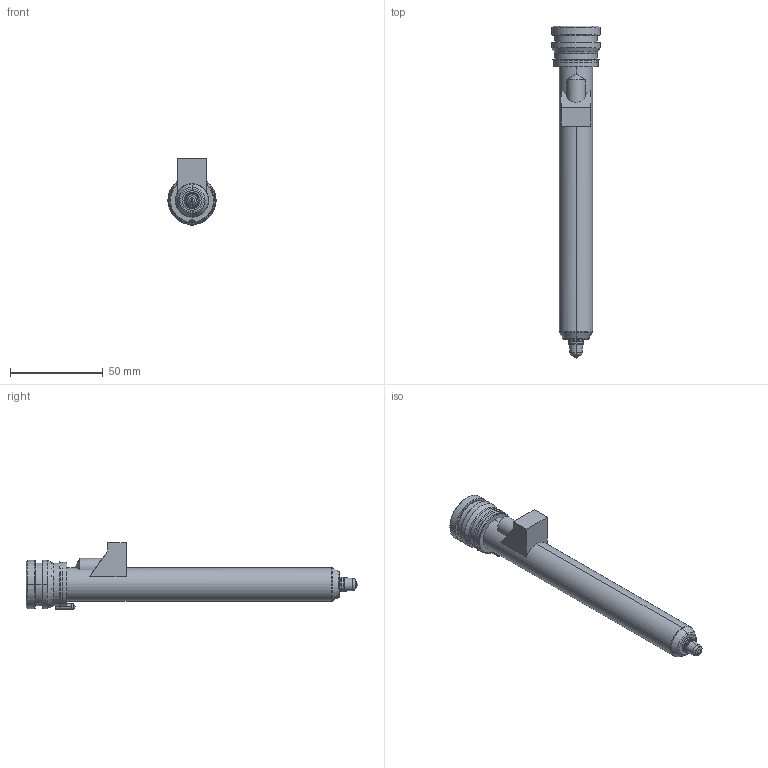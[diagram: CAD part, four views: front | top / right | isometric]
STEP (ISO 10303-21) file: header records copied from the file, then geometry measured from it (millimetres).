
FILE_DESCRIPTION((''),'2;1');
FILE_NAME('TH18161-M-1B50-PK-JG','2023-12-14T',('umhib'),('Thermoplay S.p.A.'),'PRO/ENGINEER BY PARAMETRIC TECHNOLOGY CORPORATION, 2017170','PRO/ENGINEER BY PARAMETRIC TECHNOLOGY CORPORATION, 2017170','');
FILE_SCHEMA(('CONFIG_CONTROL_DESIGN'));
Length unit declared in the file: millimetre
Products named in the file (1): TH18161-M-1B50-PK-JG
Bounding box: 26 x 179 x 36.1 mm (x, y, z)
Volume: 35157.1 mm3; surface area: 26644 mm2
Topology: 1 solids, 2 shells, 389 faces, 993 edges, 609 vertices
Faces by surface type: cylinder 149, plane 87, cone 62, torus 56, bspline 22, sphere 11, extrusion 2
Entity records: 16881 total; most frequent: CARTESIAN_POINT 5238, DIRECTION 1992, ORIENTED_EDGE 1960, EDGE_CURVE 982, AXIS2_PLACEMENT_3D 802, VERTEX_POINT 609, CIRCLE 436, EDGE_LOOP 412
